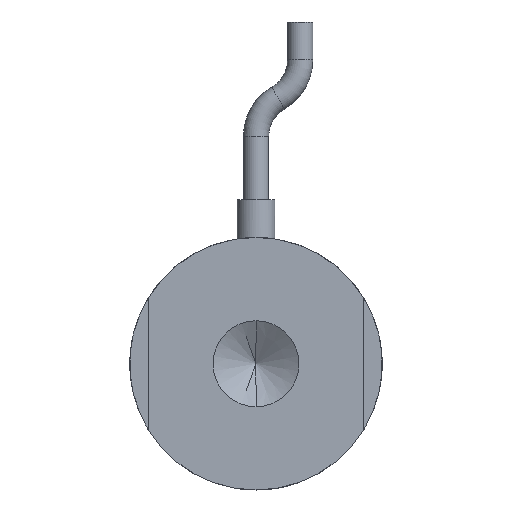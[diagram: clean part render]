
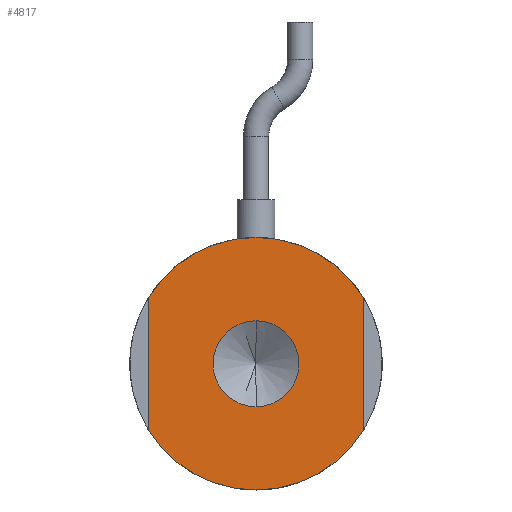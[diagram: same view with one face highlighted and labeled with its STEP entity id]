
A CAD part, front view. The second image highlights one B-rep face of the part: STEP entity #4817.
In plain terms, the highlighted planar face has unit normal (0, -1, 0).
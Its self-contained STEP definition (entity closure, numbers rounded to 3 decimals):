
#464 = CIRCLE ( 'NONE', #5762, 10. ) ;
#955 = LINE ( 'NONE', #39086, #35053 ) ;
#1034 = ORIENTED_EDGE ( 'NONE', *, *, #11526, .F. ) ;
#1790 = ORIENTED_EDGE ( 'NONE', *, *, #37051, .F. ) ;
#2407 = CARTESIAN_POINT ( 'NONE',  ( 8.5, 0., -5.268 ) ) ;
#4470 = VERTEX_POINT ( 'NONE', #2407 ) ;
#4761 = VERTEX_POINT ( 'NONE', #12148 ) ;
#4817 = ADVANCED_FACE ( 'NONE', ( #39529, #21854 ), #18169, .F. ) ;
#4959 = EDGE_LOOP ( 'NONE', ( #10139, #29325 ) ) ;
#5069 = VERTEX_POINT ( 'NONE', #19860 ) ;
#5762 = AXIS2_PLACEMENT_3D ( 'NONE', #6742, #29866, #10042 ) ;
#5878 = DIRECTION ( 'NONE',  ( 0., -1., 0. ) ) ;
#6090 = DIRECTION ( 'NONE',  ( 0., 1., 0. ) ) ;
#6742 = CARTESIAN_POINT ( 'NONE',  ( 0., 0., 0. ) ) ;
#7004 = ORIENTED_EDGE ( 'NONE', *, *, #28935, .F. ) ;
#8309 = DIRECTION ( 'NONE',  ( 0., 1., 0. ) ) ;
#8580 = EDGE_CURVE ( 'NONE', #8679, #4470, #10988, .T. ) ;
#8679 = VERTEX_POINT ( 'NONE', #12118 ) ;
#9881 = EDGE_LOOP ( 'NONE', ( #35237, #1034, #7004, #39357, #24069, #1790 ) ) ;
#10042 = DIRECTION ( 'NONE',  ( 0., 0., 1. ) ) ;
#10139 = ORIENTED_EDGE ( 'NONE', *, *, #34647, .F. ) ;
#10988 = LINE ( 'NONE', #34539, #35323 ) ;
#11505 = DIRECTION ( 'NONE',  ( 0., -1., 0. ) ) ;
#11526 = EDGE_CURVE ( 'NONE', #5069, #26136, #41979, .T. ) ;
#12118 = CARTESIAN_POINT ( 'NONE',  ( 8.5, 0., 5.268 ) ) ;
#12148 = CARTESIAN_POINT ( 'NONE',  ( 0., 0., 3.4 ) ) ;
#12170 = CIRCLE ( 'NONE', #30535, 3.4 ) ;
#13947 = CARTESIAN_POINT ( 'NONE',  ( 0., 0., 0. ) ) ;
#14343 = CARTESIAN_POINT ( 'NONE',  ( 0., 0., 0. ) ) ;
#17267 = DIRECTION ( 'NONE',  ( 0., 0., 1. ) ) ;
#17646 = DIRECTION ( 'NONE',  ( 0., 0., 1. ) ) ;
#17902 = VERTEX_POINT ( 'NONE', #28767 ) ;
#18169 = PLANE ( 'NONE',  #34183 ) ;
#19236 = DIRECTION ( 'NONE',  ( 0., 0., 1. ) ) ;
#19860 = CARTESIAN_POINT ( 'NONE',  ( 0., 0., -10. ) ) ;
#21052 = AXIS2_PLACEMENT_3D ( 'NONE', #31313, #11505, #34644 ) ;
#21332 = DIRECTION ( 'NONE',  ( 0., 0., -1. ) ) ;
#21382 = AXIS2_PLACEMENT_3D ( 'NONE', #13947, #37071, #17267 ) ;
#21511 = AXIS2_PLACEMENT_3D ( 'NONE', #25868, #6090, #29217 ) ;
#21624 = EDGE_CURVE ( 'NONE', #26136, #41288, #955, .T. ) ;
#21854 = FACE_OUTER_BOUND ( 'NONE', #9881, .T. ) ;
#24069 = ORIENTED_EDGE ( 'NONE', *, *, #29527, .F. ) ;
#24149 = CIRCLE ( 'NONE', #36238, 10. ) ;
#25633 = CIRCLE ( 'NONE', #21052, 3.4 ) ;
#25653 = CARTESIAN_POINT ( 'NONE',  ( 0., 0., 0. ) ) ;
#25868 = CARTESIAN_POINT ( 'NONE',  ( 0., 0., 0. ) ) ;
#26136 = VERTEX_POINT ( 'NONE', #27876 ) ;
#27876 = CARTESIAN_POINT ( 'NONE',  ( -8.5, 0., -5.268 ) ) ;
#28767 = CARTESIAN_POINT ( 'NONE',  ( 0., 0., 10. ) ) ;
#28935 = EDGE_CURVE ( 'NONE', #4470, #5069, #24149, .T. ) ;
#29007 = DIRECTION ( 'NONE',  ( 0., 0., -1. ) ) ;
#29217 = DIRECTION ( 'NONE',  ( 0., 0., 1. ) ) ;
#29234 = CIRCLE ( 'NONE', #21511, 10. ) ;
#29325 = ORIENTED_EDGE ( 'NONE', *, *, #36062, .F. ) ;
#29527 = EDGE_CURVE ( 'NONE', #17902, #8679, #464, .T. ) ;
#29866 = DIRECTION ( 'NONE',  ( 0., 1., 0. ) ) ;
#29993 = CARTESIAN_POINT ( 'NONE',  ( 0., 0., -3.4 ) ) ;
#30535 = AXIS2_PLACEMENT_3D ( 'NONE', #25653, #5878, #29007 ) ;
#31313 = CARTESIAN_POINT ( 'NONE',  ( 0., 0., 0. ) ) ;
#31477 = DIRECTION ( 'NONE',  ( 0., 0., 1. ) ) ;
#34183 = AXIS2_PLACEMENT_3D ( 'NONE', #37986, #8309, #31477 ) ;
#34454 = CARTESIAN_POINT ( 'NONE',  ( -8.5, 0., 5.268 ) ) ;
#34539 = CARTESIAN_POINT ( 'NONE',  ( 8.5, 0., 0. ) ) ;
#34644 = DIRECTION ( 'NONE',  ( 0., 0., -1. ) ) ;
#34647 = EDGE_CURVE ( 'NONE', #34939, #4761, #25633, .T. ) ;
#34939 = VERTEX_POINT ( 'NONE', #29993 ) ;
#35053 = VECTOR ( 'NONE', #19236, 1000. ) ;
#35237 = ORIENTED_EDGE ( 'NONE', *, *, #21624, .F. ) ;
#35323 = VECTOR ( 'NONE', #21332, 1000. ) ;
#36062 = EDGE_CURVE ( 'NONE', #4761, #34939, #12170, .T. ) ;
#36238 = AXIS2_PLACEMENT_3D ( 'NONE', #14343, #37462, #17646 ) ;
#37051 = EDGE_CURVE ( 'NONE', #41288, #17902, #29234, .T. ) ;
#37071 = DIRECTION ( 'NONE',  ( 0., 1., 0. ) ) ;
#37462 = DIRECTION ( 'NONE',  ( 0., 1., 0. ) ) ;
#37986 = CARTESIAN_POINT ( 'NONE',  ( 0., 0., 0. ) ) ;
#39086 = CARTESIAN_POINT ( 'NONE',  ( -8.5, 0., 0. ) ) ;
#39357 = ORIENTED_EDGE ( 'NONE', *, *, #8580, .F. ) ;
#39529 = FACE_BOUND ( 'NONE', #4959, .T. ) ;
#41288 = VERTEX_POINT ( 'NONE', #34454 ) ;
#41979 = CIRCLE ( 'NONE', #21382, 10. ) ;
